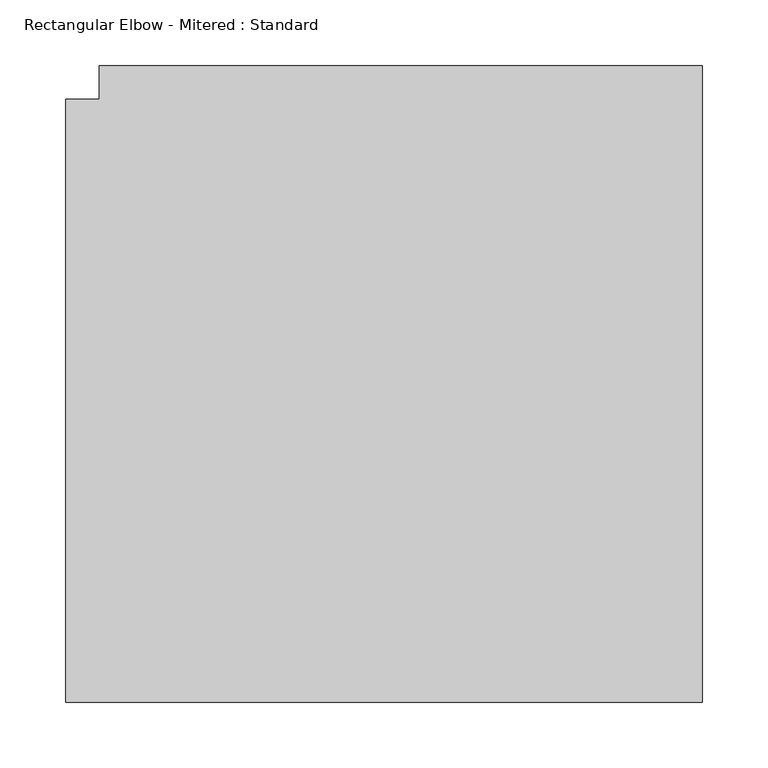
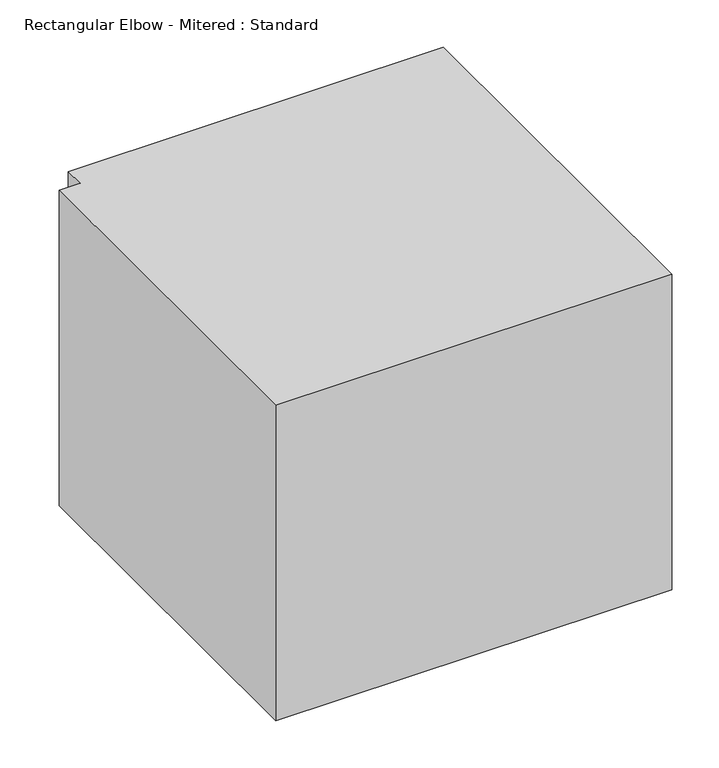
"""IFC4 building model written with IfcOpenShell, lengths in millimetres: duct fitting geometry, Rectangular Elbow - Mitered : Standard."""

from ifc_helpers import new_model, si_unit, frame, origin, place, context, project, spatial, polyline, outline, extrude, source, transform, mapped, element, save


def rectangular_elbow_mitered_standard_3a774ab6(model_context):
    return source(origin(), model_context, "Body", "SweptSolid", [
        extrude(outline(polyline([(-254.0, -228.6), (-254.0, 228.6), (-228.6, 228.6), (-228.6, 254.0), (228.6, 254.0), (228.6, -228.6), (-254.0, -228.6)])), frame((0.0, 0.0, -203.2), z_axis=(0.0, 0.0, 1.0), x_axis=(1.0, 0.0, 0.0)), (0.0, 0.0, 1.0), 406.4),
    ])


if __name__ == "__main__":
    model = new_model("IFC4")
    model_context = context("Model", 3, world=origin())
    ifc_project = project(units=[si_unit("LENGTHUNIT", "METRE", prefix="MILLI")], contexts=[model_context])
    site = spatial("IfcSite", under=ifc_project)
    building = spatial("IfcBuilding", under=site)
    placement = place(None, origin())
    rectangular_elbow_mitered_standard_shape = rectangular_elbow_mitered_standard_3a774ab6(model_context)
    element("IfcDuctFitting", 1, ObjectType="Rectangular Elbow - Mitered : Standard", at=placement, inside=building, context=model_context, shape_type="MappedRepresentation", body=[
        mapped(rectangular_elbow_mitered_standard_shape, transform((0.0, 0.0, 0.0), x_axis=(1.0, 0.0, 0.0), y_axis=(0.0, 1.0, 0.0), z_axis=(0.0, 0.0, 1.0))),
    ])
    save(model, "model.ifc")
